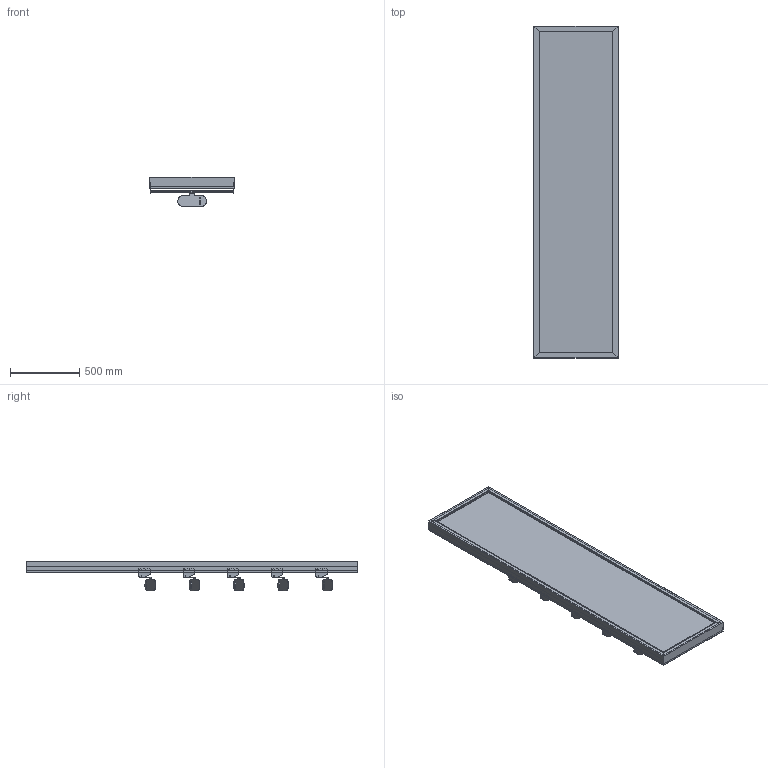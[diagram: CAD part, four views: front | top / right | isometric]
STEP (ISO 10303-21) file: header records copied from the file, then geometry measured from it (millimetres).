
FILE_DESCRIPTION (( 'STEP AP203' ), '1' );
FILE_NAME ('Padel Retail Display - Footwear 610.STEP', '2026-03-30T11:47:54', ( '' ), ( '' ), 'SwSTEP 2.0', 'SolidWorks 2025', '' );
FILE_SCHEMA (( 'CONFIG_CONTROL_DESIGN' ));
Length unit declared in the file: millimetre
Products named in the file (7): 0001-31-GA01 - 610W Slotted Upright; 0001-31-103.STEP; 0001-31-SA23 - 610W Rear Support Bar_Assem6; 0001-31-SA23 - 610W Rear Support Bar.STEP; 373-01-GA01; Padel Retail Display - Footwear 610; 0001-31-102.STEP
Assembly tree (15 placements, depth 4):
  Padel Retail Display - Footwear 610
    0001-31-GA01 - 610W Slotted Upright
    0001-31-SA23 - 610W Rear Support Bar_Assem6  x5
      0001-31-SA23 - 610W Rear Support Bar.STEP
        0001-31-102.STEP
        0001-31-103.STEP  x2
    373-01-GA01  x5
Bounding box: 609.75 x 2400 x 212.4 mm (x, y, z)
Volume: 7287226.8 mm3; surface area: 8636499.6 mm2
Topology: 26 solids, 26 shells, 945 faces, 2806 edges, 1844 vertices
Faces by surface type: plane 747, cylinder 188, bspline 10
Entity records: 18054 total; most frequent: CARTESIAN_POINT 3473, ORIENTED_EDGE 3106, DIRECTION 2463, EDGE_CURVE 1553, VECTOR 1415, LINE 1415, VERTEX_POINT 1030, EDGE_LOOP 555
